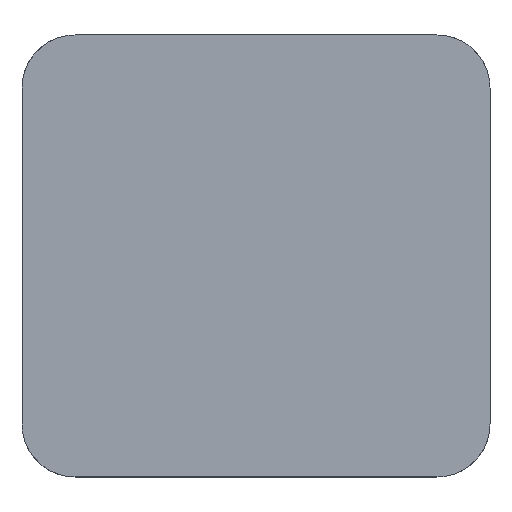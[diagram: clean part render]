
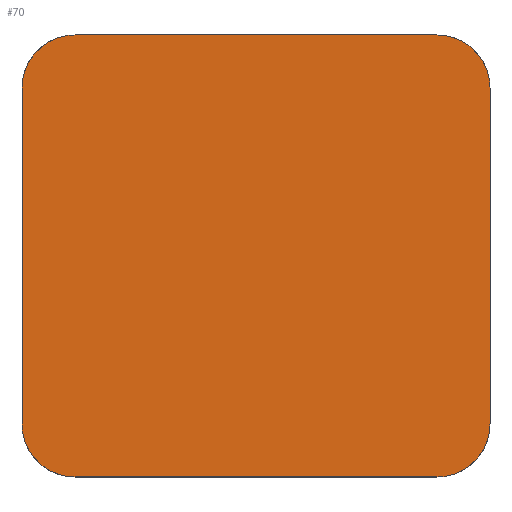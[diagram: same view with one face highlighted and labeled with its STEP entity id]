
A CAD part, top view. The second image highlights one B-rep face of the part: STEP entity #70.
In plain terms, the highlighted planar face has unit normal (0, 0, 1).
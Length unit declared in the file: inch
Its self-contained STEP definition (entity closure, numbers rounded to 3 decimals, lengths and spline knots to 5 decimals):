
#70=ADVANCED_FACE('',(#160),#161,.T.);
#160=FACE_OUTER_BOUND('',#275,.T.);
#161=PLANE('',#276);
#275=EDGE_LOOP('',(#425,#426,#427,#428,#429,#430,#431,#432));
#276=AXIS2_PLACEMENT_3D('',#433,#434,#435);
#425=ORIENTED_EDGE('',*,*,#681,.F.);
#426=ORIENTED_EDGE('',*,*,#710,.F.);
#427=ORIENTED_EDGE('',*,*,#711,.F.);
#428=ORIENTED_EDGE('',*,*,#712,.F.);
#429=ORIENTED_EDGE('',*,*,#713,.F.);
#430=ORIENTED_EDGE('',*,*,#714,.F.);
#431=ORIENTED_EDGE('',*,*,#715,.F.);
#432=ORIENTED_EDGE('',*,*,#716,.F.);
#433=CARTESIAN_POINT('',(0.68754,1.03122,0.075));
#434=DIRECTION('',(0.0,0.0,1.0));
#435=DIRECTION('',(1.0,0.0,0.0));
#681=EDGE_CURVE('',#805,#806,#807,.T.);
#710=EDGE_CURVE('',#856,#805,#857,.T.);
#711=EDGE_CURVE('',#858,#856,#859,.T.);
#712=EDGE_CURVE('',#860,#858,#861,.T.);
#713=EDGE_CURVE('',#862,#860,#863,.T.);
#714=EDGE_CURVE('',#864,#862,#865,.T.);
#715=EDGE_CURVE('',#866,#864,#867,.T.);
#716=EDGE_CURVE('',#806,#866,#868,.T.);
#805=VERTEX_POINT('',#989);
#806=VERTEX_POINT('',#990);
#807=B_SPLINE_CURVE_WITH_KNOTS('',3,(#991,#992,#993,#994),.UNSPECIFIED.,.F.,.F.,(4,4),(-1.0,-0.0),.UNSPECIFIED.);
#856=VERTEX_POINT('',#1059);
#857=LINE('',#1060,#1061);
#858=VERTEX_POINT('',#1062);
#859=B_SPLINE_CURVE_WITH_KNOTS('',3,(#1063,#1064,#1065,#1066),.UNSPECIFIED.,.F.,.F.,(4,4),(-1.0,-0.0),.UNSPECIFIED.);
#860=VERTEX_POINT('',#1067);
#861=LINE('',#1068,#1069);
#862=VERTEX_POINT('',#1070);
#863=B_SPLINE_CURVE_WITH_KNOTS('',3,(#1071,#1072,#1073,#1074),.UNSPECIFIED.,.F.,.F.,(4,4),(-1.0,-0.0),.UNSPECIFIED.);
#864=VERTEX_POINT('',#1075);
#865=LINE('',#1076,#1077);
#866=VERTEX_POINT('',#1078);
#867=B_SPLINE_CURVE_WITH_KNOTS('',3,(#1079,#1080,#1081,#1082),.UNSPECIFIED.,.F.,.F.,(4,4),(-1.0,-0.0),.UNSPECIFIED.);
#868=LINE('',#1083,#1084);
#989=CARTESIAN_POINT('',(-0.15621,1.63678,0.075));
#990=CARTESIAN_POINT('',(0.03506,1.82804,0.075));
#991=CARTESIAN_POINT('',(-0.15621,1.63678,0.075));
#992=CARTESIAN_POINT('',(-0.15621,1.7424,0.075));
#993=CARTESIAN_POINT('',(-0.07058,1.82804,0.075));
#994=CARTESIAN_POINT('',(0.03506,1.82804,0.075));
#1059=CARTESIAN_POINT('',(-0.15621,0.42567,0.075));
#1060=CARTESIAN_POINT('',(-0.15621,1.63678,0.075));
#1061=VECTOR('',#1299,1.0);
#1062=CARTESIAN_POINT('',(0.03506,0.2344,0.075));
#1063=CARTESIAN_POINT('',(0.03506,0.2344,0.075));
#1064=CARTESIAN_POINT('',(-0.07058,0.2344,0.075));
#1065=CARTESIAN_POINT('',(-0.15621,0.32004,0.075));
#1066=CARTESIAN_POINT('',(-0.15621,0.42567,0.075));
#1067=CARTESIAN_POINT('',(1.34003,0.2344,0.075));
#1068=CARTESIAN_POINT('',(0.03506,0.2344,0.075));
#1069=VECTOR('',#1300,1.0);
#1070=CARTESIAN_POINT('',(1.53128,0.42567,0.075));
#1071=CARTESIAN_POINT('',(1.53128,0.42567,0.075));
#1072=CARTESIAN_POINT('',(1.53128,0.32004,0.075));
#1073=CARTESIAN_POINT('',(1.44567,0.2344,0.075));
#1074=CARTESIAN_POINT('',(1.34003,0.2344,0.075));
#1075=CARTESIAN_POINT('',(1.53128,1.63678,0.075));
#1076=CARTESIAN_POINT('',(1.53128,0.42567,0.075));
#1077=VECTOR('',#1301,1.0);
#1078=CARTESIAN_POINT('',(1.34002,1.82804,0.075));
#1079=CARTESIAN_POINT('',(1.34002,1.82804,0.075));
#1080=CARTESIAN_POINT('',(1.44565,1.82804,0.075));
#1081=CARTESIAN_POINT('',(1.53128,1.7424,0.075));
#1082=CARTESIAN_POINT('',(1.53128,1.63678,0.075));
#1083=CARTESIAN_POINT('',(1.34002,1.82804,0.075));
#1084=VECTOR('',#1302,1.0);
#1299=DIRECTION('',(0.0,1.0,0.0));
#1300=DIRECTION('',(-1.0,-0.0,-0.0));
#1301=DIRECTION('',(-0.0,-1.0,-0.0));
#1302=DIRECTION('',(1.0,0.0,0.0));
